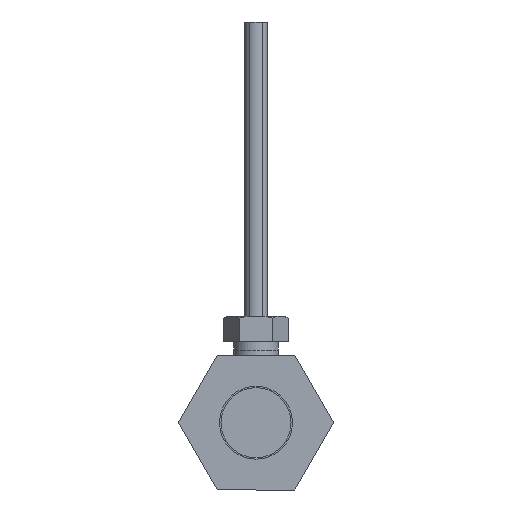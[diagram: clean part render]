
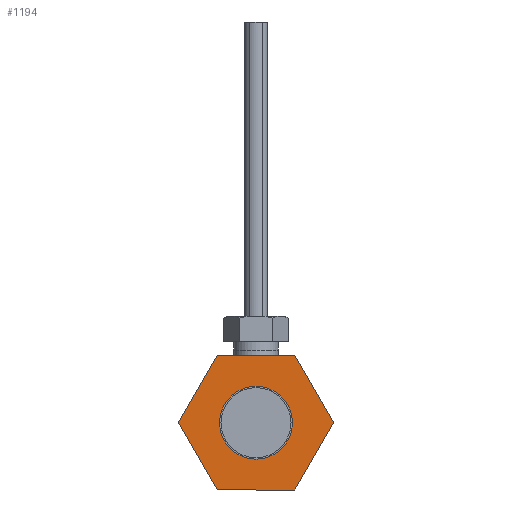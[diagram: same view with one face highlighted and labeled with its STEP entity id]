
A CAD part, front view. The second image highlights one B-rep face of the part: STEP entity #1194.
In plain terms, the highlighted planar face has unit normal (0, -1, 0) as drawn and (-1, 0, 0) by its records, which use the part's own axes.
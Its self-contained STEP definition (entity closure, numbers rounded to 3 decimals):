
#56=LINE('',#2486,#94);
#59=LINE('',#2494,#97);
#62=LINE('',#2500,#100);
#65=LINE('',#2506,#103);
#68=LINE('',#2512,#106);
#71=LINE('',#2517,#109);
#94=VECTOR('',#2039,1000.);
#97=VECTOR('',#2046,1000.);
#100=VECTOR('',#2051,1000.);
#103=VECTOR('',#2056,1000.);
#106=VECTOR('',#2061,1000.);
#109=VECTOR('',#2066,1000.);
#177=PLANE('',#1778);
#388=ORIENTED_EDGE('',*,*,#586,.F.);
#389=ORIENTED_EDGE('',*,*,#585,.F.);
#390=ORIENTED_EDGE('',*,*,#582,.F.);
#391=ORIENTED_EDGE('',*,*,#579,.F.);
#392=ORIENTED_EDGE('',*,*,#576,.F.);
#393=ORIENTED_EDGE('',*,*,#573,.F.);
#394=ORIENTED_EDGE('',*,*,#569,.F.);
#569=EDGE_CURVE('',#685,#686,#56,.T.);
#573=EDGE_CURVE('',#686,#689,#59,.T.);
#576=EDGE_CURVE('',#689,#691,#62,.T.);
#579=EDGE_CURVE('',#691,#693,#65,.T.);
#582=EDGE_CURVE('',#693,#695,#68,.T.);
#585=EDGE_CURVE('',#695,#685,#71,.T.);
#586=EDGE_CURVE('',#696,#696,#774,.T.);
#685=VERTEX_POINT('',#2485);
#686=VERTEX_POINT('',#2487);
#689=VERTEX_POINT('',#2495);
#691=VERTEX_POINT('',#2501);
#693=VERTEX_POINT('',#2507);
#695=VERTEX_POINT('',#2513);
#696=VERTEX_POINT('',#2520);
#774=CIRCLE('',#1779,6.5);
#880=EDGE_LOOP('',(#388));
#881=EDGE_LOOP('',(#389,#390,#391,#392,#393,#394));
#1045=FACE_BOUND('',#880,.T.);
#1046=FACE_BOUND('',#881,.T.);
#1194=ADVANCED_FACE('',(#1045,#1046),#177,.F.);
#1778=AXIS2_PLACEMENT_3D('',#2518,#2067,#2068);
#1779=AXIS2_PLACEMENT_3D('',#2519,#2069,#2070);
#2039=DIRECTION('',(0.,-0.5,0.866));
#2046=DIRECTION('',(0.,-1.,0.));
#2051=DIRECTION('',(0.,-0.5,-0.866));
#2056=DIRECTION('',(0.,0.5,-0.866));
#2061=DIRECTION('',(0.,1.,0.));
#2066=DIRECTION('',(0.,0.5,0.866));
#2067=DIRECTION('',(1.,0.,0.));
#2068=DIRECTION('',(0.,0.,-1.));
#2069=DIRECTION('',(-1.,0.,0.));
#2070=DIRECTION('',(0.,0.,1.));
#2485=CARTESIAN_POINT('',(8.,13.856,0.));
#2486=CARTESIAN_POINT('',(8.,13.856,0.));
#2487=CARTESIAN_POINT('',(8.,6.928,12.));
#2494=CARTESIAN_POINT('',(8.,6.928,12.));
#2495=CARTESIAN_POINT('',(8.,-6.928,12.));
#2500=CARTESIAN_POINT('',(8.,-6.928,12.));
#2501=CARTESIAN_POINT('',(8.,-13.856,0.));
#2506=CARTESIAN_POINT('',(8.,-13.856,0.));
#2507=CARTESIAN_POINT('',(8.,-6.928,-12.));
#2512=CARTESIAN_POINT('',(8.,-6.928,-12.));
#2513=CARTESIAN_POINT('',(8.,6.928,-12.));
#2517=CARTESIAN_POINT('',(8.,6.928,-12.));
#2518=CARTESIAN_POINT('',(8.,0.,15.));
#2519=CARTESIAN_POINT('',(8.,0.,0.));
#2520=CARTESIAN_POINT('',(8.,0.,6.5));
